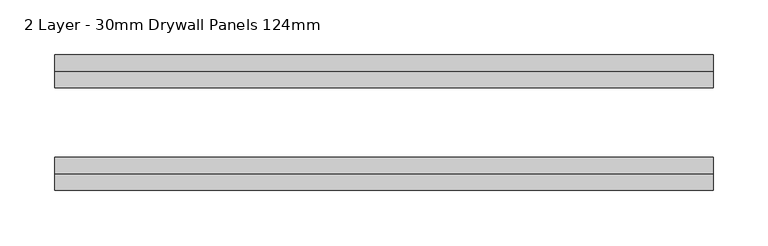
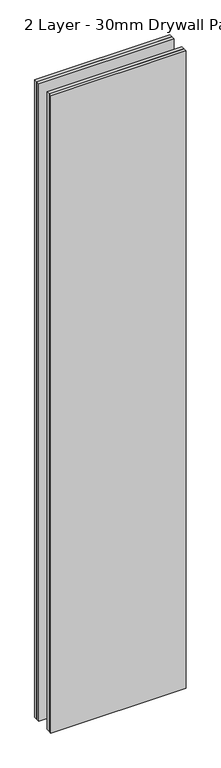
"""IFC4 building model written with IfcOpenShell, lengths in millimetres: plate geometry, 4 LayerS - Drywall Panels : 2 Layer - 30mm Drywall Panels 124mm."""

from ifc_helpers import new_model, si_unit, origin, origin_with_axes, place, context, project, spatial, polyline, outline, extrude, source, transform, mapped, element, save


def plate_2_layer_30mm_drywall_panels_124mm_1495f93a(model_context):
    return source(origin(), model_context, "Body", "SweptSolid", [
        extrude(outline(polyline([(299.2000002, 46.5), (-299.2000002, 46.5), (-299.2000002, 61.5), (299.2000002, 61.5), (299.2000002, 46.5)])), origin_with_axes(), (0.0, 0.0, 1.0), 2979.4),
        extrude(outline(polyline([(299.2000002, -46.5), (-299.2000002, -46.5), (-299.2000002, -31.5), (299.2000002, -31.5), (299.2000002, -46.5)])), origin_with_axes(), (0.0, 0.0, 1.0), 2979.4),
        extrude(outline(polyline([(299.2000002, 31.5), (-299.2000002, 31.5), (-299.2000002, 46.5), (299.2000002, 46.5), (299.2000002, 31.5)])), origin_with_axes(), (0.0, 0.0, 1.0), 2979.4),
        extrude(outline(polyline([(299.2000002, -46.5), (299.2000002, -61.5), (-299.2000002, -61.5), (-299.2000002, -46.5), (299.2000002, -46.5)])), origin_with_axes(), (0.0, 0.0, 1.0), 2979.4),
    ])


if __name__ == "__main__":
    model = new_model("IFC4")
    model_context = context("Model", 3, world=origin())
    ifc_project = project(units=[si_unit("LENGTHUNIT", "METRE", prefix="MILLI")], contexts=[model_context])
    site = spatial("IfcSite", under=ifc_project)
    building = spatial("IfcBuilding", under=site)
    placement = place(None, origin())
    plate_2_layer_30mm_drywall_panels_124mm_shape = plate_2_layer_30mm_drywall_panels_124mm_1495f93a(model_context)
    element("IfcPlate", 1, ObjectType="4 LayerS - Drywall Panels : 2 Layer - 30mm Drywall Panels 124mm", at=placement, inside=building, context=model_context, shape_type="MappedRepresentation", body=[
        mapped(plate_2_layer_30mm_drywall_panels_124mm_shape, transform((0.0, 0.0, 0.0), x_axis=(1.0, 0.0, 0.0), y_axis=(0.0, 1.0, 0.0), z_axis=(0.0, 0.0, 1.0))),
    ])
    save(model, "model.ifc")
